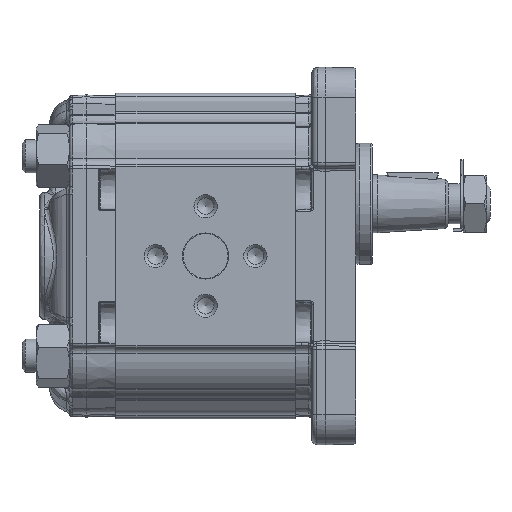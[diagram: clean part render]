
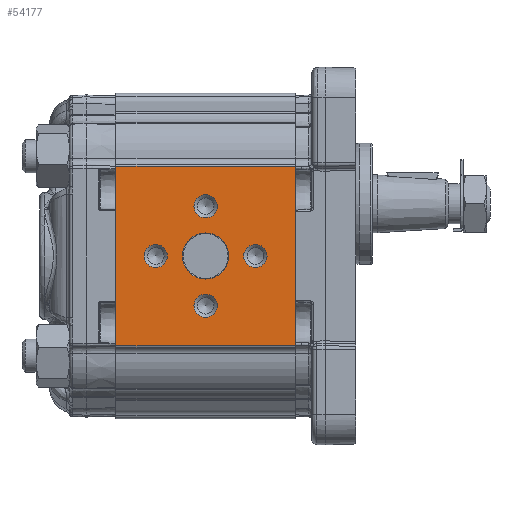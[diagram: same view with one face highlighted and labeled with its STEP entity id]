
A CAD part, left-side view. The second image highlights one B-rep face of the part: STEP entity #54177.
In plain terms, the highlighted planar face has unit normal (-1, 0, 0).
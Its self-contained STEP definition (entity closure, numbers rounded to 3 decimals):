
#3597=PLANE('',#57373);
#4588=LINE('',#77714,#6439);
#4589=LINE('',#77717,#6440);
#4590=LINE('',#77719,#6441);
#4591=LINE('',#77721,#6442);
#6439=VECTOR('',#63272,1000.);
#6440=VECTOR('',#63273,1000.);
#6441=VECTOR('',#63274,1000.);
#6442=VECTOR('',#63275,1000.);
#11594=ORIENTED_EDGE('',*,*,#20883,.T.);
#11595=ORIENTED_EDGE('',*,*,#20884,.T.);
#11596=ORIENTED_EDGE('',*,*,#20885,.T.);
#11597=ORIENTED_EDGE('',*,*,#20886,.T.);
#11598=ORIENTED_EDGE('',*,*,#20887,.T.);
#11599=ORIENTED_EDGE('',*,*,#20888,.F.);
#11600=ORIENTED_EDGE('',*,*,#20889,.F.);
#11601=ORIENTED_EDGE('',*,*,#20890,.T.);
#11602=ORIENTED_EDGE('',*,*,#20891,.T.);
#20883=EDGE_CURVE('',#25815,#25815,#28919,.F.);
#20884=EDGE_CURVE('',#25816,#25816,#28920,.F.);
#20885=EDGE_CURVE('',#25817,#25817,#28921,.F.);
#20886=EDGE_CURVE('',#25818,#25818,#28922,.F.);
#20887=EDGE_CURVE('',#25819,#25819,#28923,.F.);
#20888=EDGE_CURVE('',#25820,#25821,#4588,.T.);
#20889=EDGE_CURVE('',#25822,#25820,#4589,.T.);
#20890=EDGE_CURVE('',#25822,#25823,#4590,.T.);
#20891=EDGE_CURVE('',#25823,#25821,#4591,.T.);
#25815=VERTEX_POINT('',#77705);
#25816=VERTEX_POINT('',#77707);
#25817=VERTEX_POINT('',#77709);
#25818=VERTEX_POINT('',#77711);
#25819=VERTEX_POINT('',#77713);
#25820=VERTEX_POINT('',#77715);
#25821=VERTEX_POINT('',#77716);
#25822=VERTEX_POINT('',#77718);
#25823=VERTEX_POINT('',#77720);
#28919=CIRCLE('',#57374,3.5);
#28920=CIRCLE('',#57375,3.5);
#28921=CIRCLE('',#57376,3.5);
#28922=CIRCLE('',#57377,3.5);
#28923=CIRCLE('',#57378,6.95);
#30899=EDGE_LOOP('',(#11594));
#30900=EDGE_LOOP('',(#11595));
#30901=EDGE_LOOP('',(#11596));
#30902=EDGE_LOOP('',(#11597));
#30903=EDGE_LOOP('',(#11598));
#30904=EDGE_LOOP('',(#11599,#11600,#11601,#11602));
#33740=FACE_BOUND('',#30899,.T.);
#33741=FACE_BOUND('',#30900,.T.);
#33742=FACE_BOUND('',#30901,.T.);
#33743=FACE_BOUND('',#30902,.T.);
#33744=FACE_BOUND('',#30903,.T.);
#33745=FACE_BOUND('',#30904,.T.);
#54177=ADVANCED_FACE('',(#33740,#33741,#33742,#33743,#33744,#33745),#3597,
 .T.);
#57373=AXIS2_PLACEMENT_3D('',#77703,#63260,#63261);
#57374=AXIS2_PLACEMENT_3D('',#77704,#63262,#63263);
#57375=AXIS2_PLACEMENT_3D('',#77706,#63264,#63265);
#57376=AXIS2_PLACEMENT_3D('',#77708,#63266,#63267);
#57377=AXIS2_PLACEMENT_3D('',#77710,#63268,#63269);
#57378=AXIS2_PLACEMENT_3D('',#77712,#63270,#63271);
#63260=DIRECTION('',(-1.,0.,0.));
#63261=DIRECTION('',(0.,0.,1.));
#63262=DIRECTION('',(-1.,0.,0.));
#63263=DIRECTION('',(0.,0.,1.));
#63264=DIRECTION('',(-1.,0.,0.));
#63265=DIRECTION('',(0.,0.,1.));
#63266=DIRECTION('',(-1.,0.,0.));
#63267=DIRECTION('',(0.,0.,1.));
#63268=DIRECTION('',(-1.,0.,0.));
#63269=DIRECTION('',(0.,0.,1.));
#63270=DIRECTION('',(-1.,0.,0.));
#63271=DIRECTION('',(0.,0.,1.));
#63272=DIRECTION('',(0.,0.,-1.));
#63273=DIRECTION('',(0.,-1.,0.));
#63274=DIRECTION('',(0.,0.,-1.));
#63275=DIRECTION('',(0.,-1.,0.));
#77703=CARTESIAN_POINT('',(-43.,54.,27.048));
#77704=CARTESIAN_POINT('',(-43.,12.,0.));
#77705=CARTESIAN_POINT('',(-43.,12.,3.5));
#77706=CARTESIAN_POINT('',(-43.,42.,0.));
#77707=CARTESIAN_POINT('',(-43.,42.,3.5));
#77708=CARTESIAN_POINT('',(-43.,27.,-15.));
#77709=CARTESIAN_POINT('',(-43.,27.,-11.5));
#77710=CARTESIAN_POINT('',(-43.,27.,15.));
#77711=CARTESIAN_POINT('',(-43.,27.,18.5));
#77712=CARTESIAN_POINT('',(-43.,27.,0.));
#77713=CARTESIAN_POINT('',(-43.,27.,6.95));
#77714=CARTESIAN_POINT('',(-43.,0.,27.048));
#77715=CARTESIAN_POINT('',(-43.,0.,27.048));
#77716=CARTESIAN_POINT('',(-43.,0.,-27.048));
#77717=CARTESIAN_POINT('',(-43.,54.,27.048));
#77718=CARTESIAN_POINT('',(-43.,54.,27.048));
#77719=CARTESIAN_POINT('',(-43.,54.,27.048));
#77720=CARTESIAN_POINT('',(-43.,54.,-27.048));
#77721=CARTESIAN_POINT('',(-43.,54.,-27.048));
